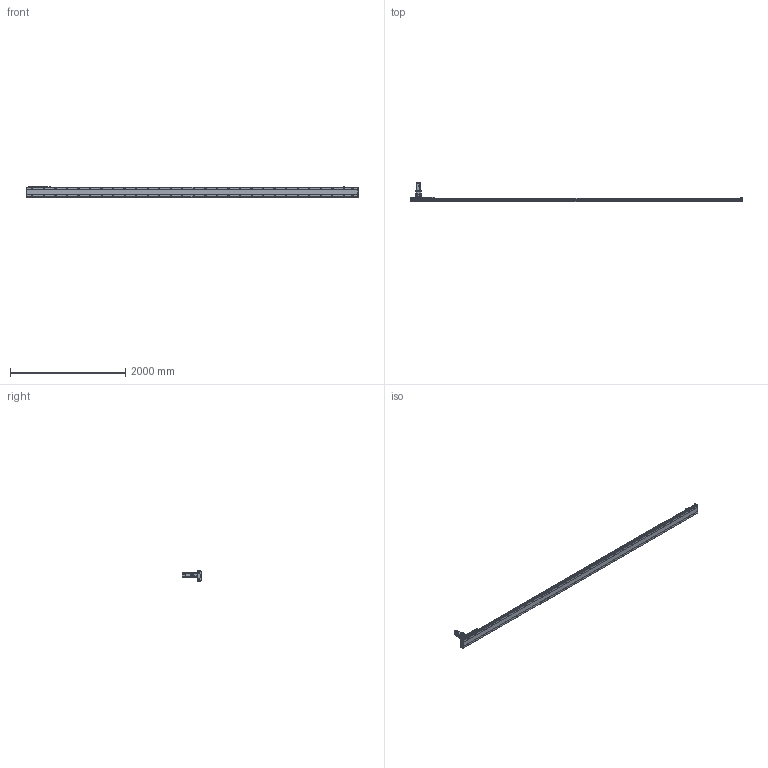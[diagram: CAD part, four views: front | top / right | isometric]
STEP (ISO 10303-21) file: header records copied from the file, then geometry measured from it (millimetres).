
FILE_DESCRIPTION(/* description */ ('STEP AP203'),/* implementation_level */ '2;1');
FILE_NAME(/* name */ 'SHS17A-L13-S5300-BC-T75-C1-N(0)',/* time_stamp */ '2023-03-27T08:59:33+02:00',/* author */ ('License CC BY-ND 4.0'),/* organization */ ('CADENAS'),/* preprocessor_version */ 'ST-DEVELOPER v19.3',/* originating_system */ 'PARTsolutions',/* authorisation */ ' ');
FILE_SCHEMA (('CONFIG_CONTROL_DESIGN'));
Length unit declared in the file: millimetre
Products named in the file (7): SHS17A-L13-S5300-BC-T75-C1-N(0); PSC140-sensor; SHS17A-S5300(0)_body2; T75-p1; SHS17A-S5300_body3; SHS17A-S5300-C1(0)_slider; SHS17A-S5300-C1(0)_body
Assembly tree (13 placements, depth 2):
  SHS17A-L13-S5300-BC-T75-C1-N(0)
    PSC140-sensor  x3
    SHS17A-S5300(0)_body2  x6
    T75-p1
    SHS17A-S5300_body3
    SHS17A-S5300-C1(0)_slider
    SHS17A-S5300-C1(0)_body
Bounding box: 5754 x 333.8 x 193.4 mm (x, y, z)
Volume: 38363057.4 mm3; surface area: 4365047.5 mm2
Topology: 13 solids, 13 shells, 2584 faces, 6616 edges, 4305 vertices
Faces by surface type: plane 1546, cylinder 923, cone 112, torus 3
Full cylindrical faces by diameter (mm): 2.8 x3, 4.134 x24, 4.5 x2, 4.6 x3, 4.917 x15, 5.5 x48, 6 x7, 6.5 x24, 6.647 x66, 6.8 x9, 8 x3, 8.5 x58, 10 x28, 11 x4, 14 x58, 22 x1, 24 x1, 24.2 x1, 28 x1, 28.2 x1, 28.8 x1, 29.8 x1, 48.542 x1, 68 x1, 70 x1, 78 x1, 80 x2
Entity records: 54598 total; most frequent: CARTESIAN_POINT 11158, DIRECTION 8773, ORIENTED_EDGE 8548, EDGE_CURVE 4274, AXIS2_PLACEMENT_3D 3164, VERTEX_POINT 3013, EDGE_LOOP 2561, FACE_BOUND 2561
